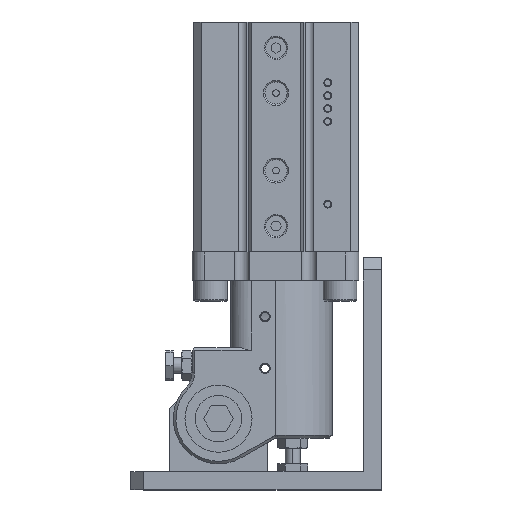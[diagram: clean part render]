
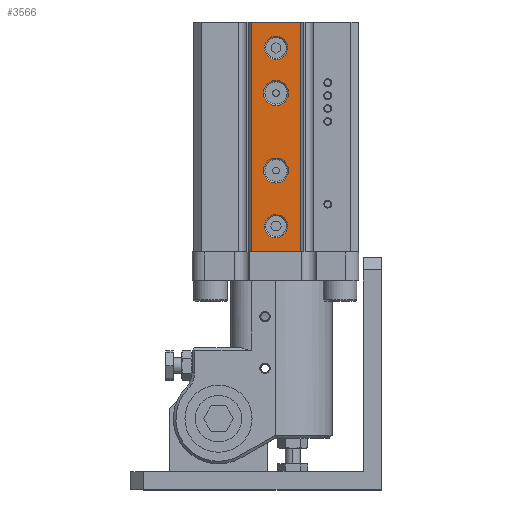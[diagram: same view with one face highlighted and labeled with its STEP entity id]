
A CAD part, top view. The second image highlights one B-rep face of the part: STEP entity #3566.
In plain terms, the highlighted planar face has unit normal (0, 0, 1).
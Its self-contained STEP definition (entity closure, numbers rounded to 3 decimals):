
#337=ELLIPSE('',#14196,4.5,4.5);
#338=ELLIPSE('',#14201,4.5,4.5);
#347=B_SPLINE_CURVE_WITH_KNOTS('',3,(#20153,#20154,#20155,#20156,#20157,
#20158,#20159,#20160,#20161,#20162),.UNSPECIFIED.,.F.,.F.,(4,2,2,2,4),(0.,
0.25,0.5,0.75,1.),.UNSPECIFIED.);
#348=B_SPLINE_CURVE_WITH_KNOTS('',3,(#20174,#20175,#20176,#20177,#20178,
#20179,#20180,#20181,#20182,#20183),.UNSPECIFIED.,.F.,.F.,(4,2,2,2,4),(0.,
0.25,0.5,0.75,1.),.UNSPECIFIED.);
#1552=LINE('',#20145,#2558);
#1553=LINE('',#20148,#2559);
#1554=LINE('',#20150,#2560);
#1555=LINE('',#20152,#2561);
#2558=VECTOR('',#15840,1.);
#2559=VECTOR('',#15841,1.);
#2560=VECTOR('',#15842,1.);
#2561=VECTOR('',#15843,1.);
#3566=ADVANCED_FACE('',(#4796,#4797,#4798,#4799,#4800),#4426,.T.);
#4426=PLANE('',#14202);
#4796=FACE_BOUND('',#5295,.T.);
#4797=FACE_BOUND('',#5296,.T.);
#4798=FACE_BOUND('',#5297,.T.);
#4799=FACE_BOUND('',#5298,.T.);
#4800=FACE_BOUND('',#5299,.T.);
#5295=EDGE_LOOP('',(#6520,#6521,#6522,#6523));
#5296=EDGE_LOOP('',(#6524,#6525));
#5297=EDGE_LOOP('',(#6526,#6527));
#5298=EDGE_LOOP('',(#6528,#6529));
#5299=EDGE_LOOP('',(#6530,#6531));
#6520=ORIENTED_EDGE('',*,*,#11560,.T.);
#6521=ORIENTED_EDGE('',*,*,#11561,.F.);
#6522=ORIENTED_EDGE('',*,*,#11562,.F.);
#6523=ORIENTED_EDGE('',*,*,#11563,.T.);
#6524=ORIENTED_EDGE('',*,*,#11564,.T.);
#6525=ORIENTED_EDGE('',*,*,#11565,.T.);
#6526=ORIENTED_EDGE('',*,*,#11566,.F.);
#6527=ORIENTED_EDGE('',*,*,#11567,.T.);
#6528=ORIENTED_EDGE('',*,*,#11568,.F.);
#6529=ORIENTED_EDGE('',*,*,#11569,.T.);
#6530=ORIENTED_EDGE('',*,*,#11570,.T.);
#6531=ORIENTED_EDGE('',*,*,#11571,.T.);
#10294=VERTEX_POINT('',#20146);
#10295=VERTEX_POINT('',#20147);
#10296=VERTEX_POINT('',#20149);
#10297=VERTEX_POINT('',#20151);
#10298=VERTEX_POINT('',#20163);
#10299=VERTEX_POINT('',#20164);
#10300=VERTEX_POINT('',#20167);
#10301=VERTEX_POINT('',#20168);
#10302=VERTEX_POINT('',#20171);
#10303=VERTEX_POINT('',#20172);
#10304=VERTEX_POINT('',#20184);
#10305=VERTEX_POINT('',#20185);
#11560=EDGE_CURVE('',#10294,#10295,#1552,.T.);
#11561=EDGE_CURVE('',#10296,#10295,#1553,.T.);
#11562=EDGE_CURVE('',#10297,#10296,#1554,.T.);
#11563=EDGE_CURVE('',#10297,#10294,#1555,.T.);
#11564=EDGE_CURVE('',#10298,#10299,#347,.T.);
#11565=EDGE_CURVE('',#10299,#10298,#337,.T.);
#11566=EDGE_CURVE('',#10300,#10301,#13451,.T.);
#11567=EDGE_CURVE('',#10300,#10301,#13452,.T.);
#11568=EDGE_CURVE('',#10302,#10303,#13453,.T.);
#11569=EDGE_CURVE('',#10302,#10303,#13454,.T.);
#11570=EDGE_CURVE('',#10304,#10305,#348,.T.);
#11571=EDGE_CURVE('',#10305,#10304,#338,.T.);
#13451=CIRCLE('',#14197,4.85);
#13452=CIRCLE('',#14198,4.85);
#13453=CIRCLE('',#14199,4.85);
#13454=CIRCLE('',#14200,4.85);
#14196=AXIS2_PLACEMENT_3D('',#20165,#15844,#15845);
#14197=AXIS2_PLACEMENT_3D('',#20166,#15846,#15847);
#14198=AXIS2_PLACEMENT_3D('',#20169,#15848,#15849);
#14199=AXIS2_PLACEMENT_3D('',#20170,#15850,#15851);
#14200=AXIS2_PLACEMENT_3D('',#20173,#15852,#15853);
#14201=AXIS2_PLACEMENT_3D('',#20186,#15854,#15855);
#14202=AXIS2_PLACEMENT_3D('',#20187,#15856,#15857);
#15840=DIRECTION('',(0.,1.,0.));
#15841=DIRECTION('',(1.,0.,0.));
#15842=DIRECTION('',(0.,1.,0.));
#15843=DIRECTION('',(1.,0.,0.));
#15844=DIRECTION('',(0.,0.,-1.));
#15845=DIRECTION('',(-1.,0.,0.));
#15846=DIRECTION('',(0.,0.,1.));
#15847=DIRECTION('',(0.,-1.,0.));
#15848=DIRECTION('',(0.,0.,-1.));
#15849=DIRECTION('',(0.,-1.,0.));
#15850=DIRECTION('',(0.,0.,1.));
#15851=DIRECTION('',(0.,-1.,0.));
#15852=DIRECTION('',(0.,0.,-1.));
#15853=DIRECTION('',(0.,-1.,0.));
#15854=DIRECTION('',(0.,0.,-1.));
#15855=DIRECTION('',(-1.,0.,0.));
#15856=DIRECTION('',(0.,0.,1.));
#15857=DIRECTION('',(-1.,0.,0.));
#20145=CARTESIAN_POINT('',(41.5,0.,0.));
#20146=CARTESIAN_POINT('',(41.5,0.,0.));
#20147=CARTESIAN_POINT('',(41.5,89.,0.));
#20148=CARTESIAN_POINT('',(22.5,89.,0.));
#20149=CARTESIAN_POINT('',(22.5,89.,0.));
#20150=CARTESIAN_POINT('',(22.5,0.,0.));
#20151=CARTESIAN_POINT('',(22.5,0.,0.));
#20152=CARTESIAN_POINT('',(22.5,0.,0.));
#20153=CARTESIAN_POINT('',(32.,83.5,0.));
#20154=CARTESIAN_POINT('',(33.184,83.499,0.));
#20155=CARTESIAN_POINT('',(34.35,83.014,0.));
#20156=CARTESIAN_POINT('',(36.014,81.35,0.));
#20157=CARTESIAN_POINT('',(36.5,80.176,0.));
#20158=CARTESIAN_POINT('',(36.5,77.823,0.));
#20159=CARTESIAN_POINT('',(36.014,76.65,0.));
#20160=CARTESIAN_POINT('',(34.35,74.986,0.));
#20161=CARTESIAN_POINT('',(33.181,74.501,0.));
#20162=CARTESIAN_POINT('',(32.,74.5,0.));
#20163=CARTESIAN_POINT('',(32.,83.5,0.));
#20164=CARTESIAN_POINT('',(32.,74.5,0.));
#20165=CARTESIAN_POINT('',(32.,79.,0.));
#20166=CARTESIAN_POINT('',(32.,61.5,0.));
#20167=CARTESIAN_POINT('',(32.,56.65,0.));
#20168=CARTESIAN_POINT('',(32.,66.35,0.));
#20169=CARTESIAN_POINT('',(32.,61.5,0.));
#20170=CARTESIAN_POINT('',(32.,31.5,0.));
#20171=CARTESIAN_POINT('',(32.,26.65,0.));
#20172=CARTESIAN_POINT('',(32.,36.35,0.));
#20173=CARTESIAN_POINT('',(32.,31.5,0.));
#20174=CARTESIAN_POINT('',(32.,14.5,0.));
#20175=CARTESIAN_POINT('',(33.184,14.499,0.));
#20176=CARTESIAN_POINT('',(34.35,14.014,0.));
#20177=CARTESIAN_POINT('',(36.014,12.35,0.));
#20178=CARTESIAN_POINT('',(36.5,11.177,0.));
#20179=CARTESIAN_POINT('',(36.5,8.823,0.));
#20180=CARTESIAN_POINT('',(36.014,7.65,0.));
#20181=CARTESIAN_POINT('',(34.35,5.986,0.));
#20182=CARTESIAN_POINT('',(33.181,5.501,0.));
#20183=CARTESIAN_POINT('',(32.,5.5,0.));
#20184=CARTESIAN_POINT('',(32.,14.5,0.));
#20185=CARTESIAN_POINT('',(32.,5.5,0.));
#20186=CARTESIAN_POINT('',(32.,10.,0.));
#20187=CARTESIAN_POINT('',(22.5,0.,0.));
